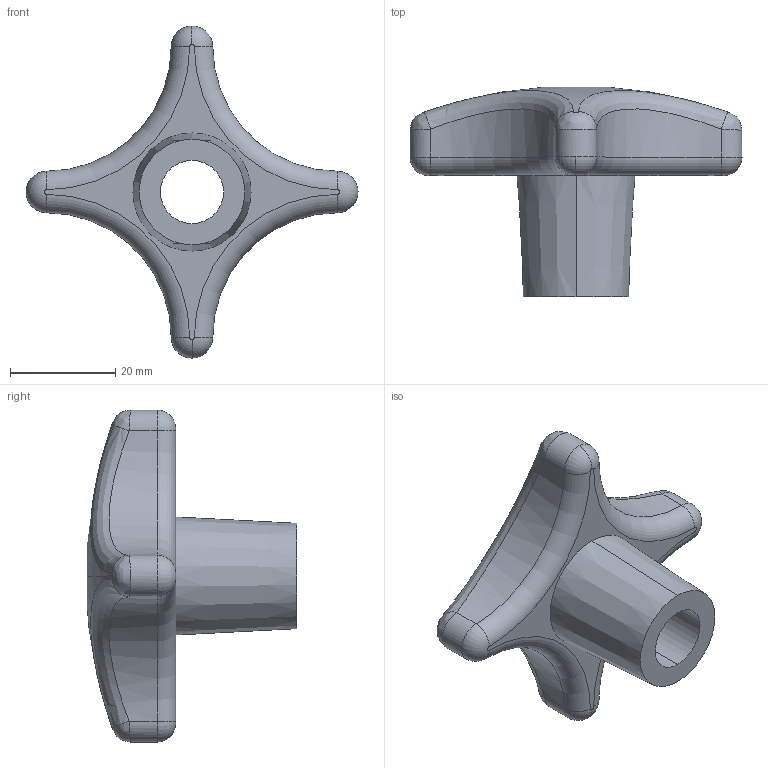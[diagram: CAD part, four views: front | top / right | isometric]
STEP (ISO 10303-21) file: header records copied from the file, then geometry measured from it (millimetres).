
FILE_DESCRIPTION (( 'STEP AP203' ), '1' );
FILE_NAME ('7000.W163.step', '2010-01-29T17:35:33', ( 'Wixroyd' ), ( 'Wixroyd' ), 'SwSTEP 2.0', 'SolidWorks 2009', '' );
FILE_SCHEMA (( 'CONFIG_CONTROL_DESIGN' ));
Length unit declared in the file: millimetre
Products named in the file (1): 7000.W163
Bounding box: 63 x 39.79 x 63 mm (x, y, z)
Volume: 23830.5 mm3; surface area: 7722.8 mm2
Topology: 1 solids, 1 shells, 35 faces, 82 edges, 49 vertices
Faces by surface type: cylinder 11, torus 10, bspline 8, cone 2, sphere 2, plane 2
Entity records: 6552 total; most frequent: CARTESIAN_POINT 5690, DIRECTION 169, ORIENTED_EDGE 164, EDGE_CURVE 82, AXIS2_PLACEMENT_3D 78, CIRCLE 50, VERTEX_POINT 49, EDGE_LOOP 37
